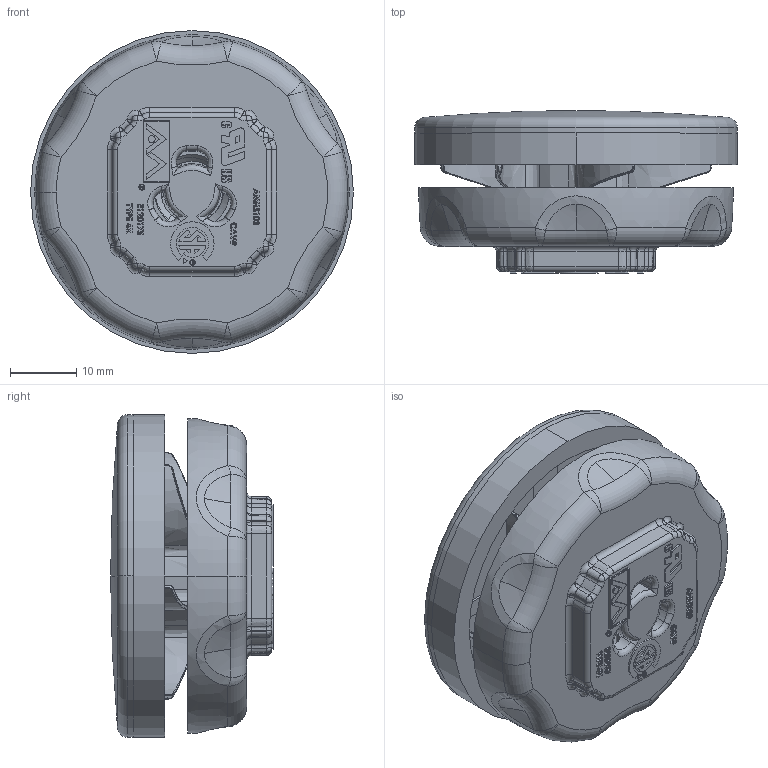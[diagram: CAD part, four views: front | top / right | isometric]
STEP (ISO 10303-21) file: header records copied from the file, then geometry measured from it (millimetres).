
FILE_DESCRIPTION (( 'STEP AP203' ), '1' );
FILE_NAME ('HP100PCLG.step', '2014-09-30T12:02:54', ( '' ), ( '' ), 'SwSTEP 2.0', 'SolidWorks 2014', '' );
FILE_SCHEMA (( 'CONFIG_CONTROL_DESIGN' ));
Length unit declared in the file: inch
Products named in the file (5): WHS100NUT; AMHS100; HP100PCLG; WHS100PLG; 70-GSKTHS100
Assembly tree (4 placements, depth 3):
  HP100PCLG
    AMHS100
      WHS100PLG
      70-GSKTHS100
      WHS100NUT
Bounding box: 48.84 x 24.63 x 48.84 mm (x, y, z)
Volume: 19528.2 mm3; surface area: 14776.4 mm2
Topology: 3 solids, 3 shells, 1148 faces, 2922 edges, 1778 vertices
Faces by surface type: bspline 426, plane 417, torus 94, cylinder 79, sphere 78, cone 54
Entity records: 54651 total; most frequent: CARTESIAN_POINT 29880, ORIENTED_EDGE 5722, DIRECTION 4027, EDGE_CURVE 2861, VERTEX_POINT 1778, AXIS2_PLACEMENT_3D 1417, EDGE_LOOP 1215, LINE 1193
